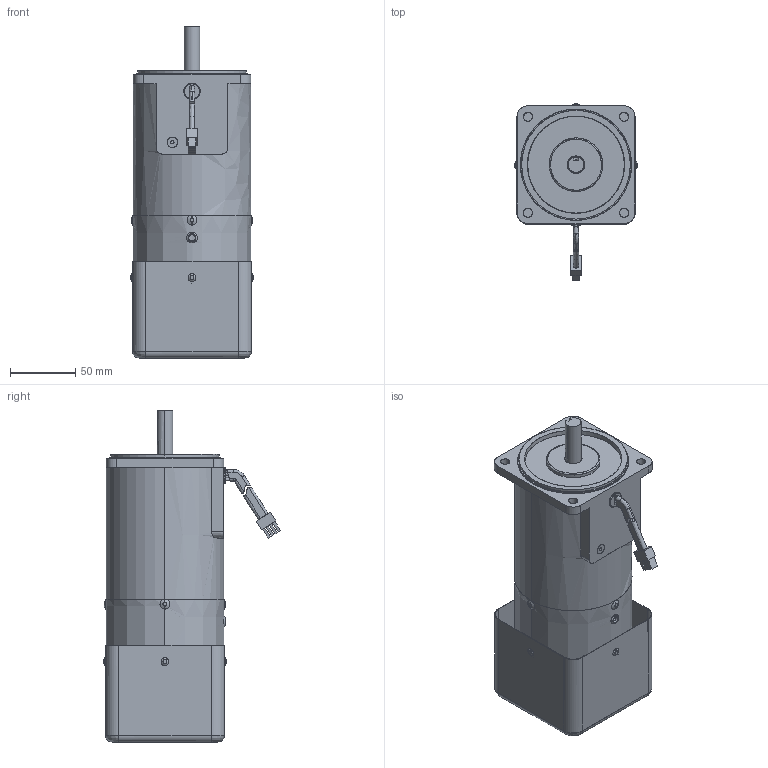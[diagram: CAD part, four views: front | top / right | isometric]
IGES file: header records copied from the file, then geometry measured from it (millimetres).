
Start section: SolidWorks IGES file using analytic representation for surfaces
Global section: file name: \\楷备家烹钦辑滚\data (D)\档搁 枚\权其捞瘤 档搁\9. SPEED BRAKE\90\120W\(9-102) 9SBDG∴-120F2WH.IGS; native system: SolidWorks 2007; preprocessor: SolidWorks 2007; author: user; date: 150724.104108; units: millimetre
Bounding box: 94 x 135.4 x 254 mm (x, y, z)
Surface area: 221964.1 mm2 (no closed solid volume)
Topology: 0 solids, 0 shells, 470 faces, 9339 edges, 9339 vertices
Faces by surface type: revolution 290, bspline 180
